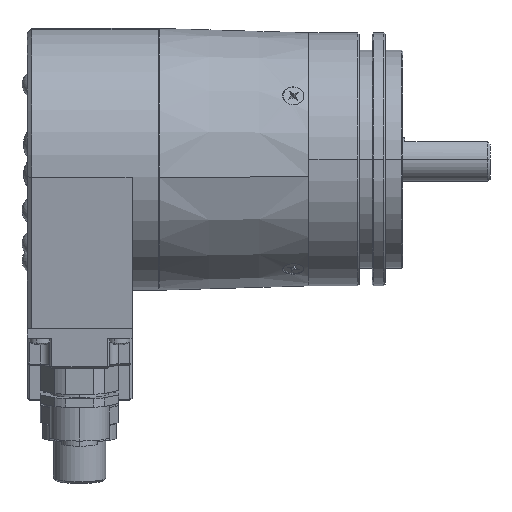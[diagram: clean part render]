
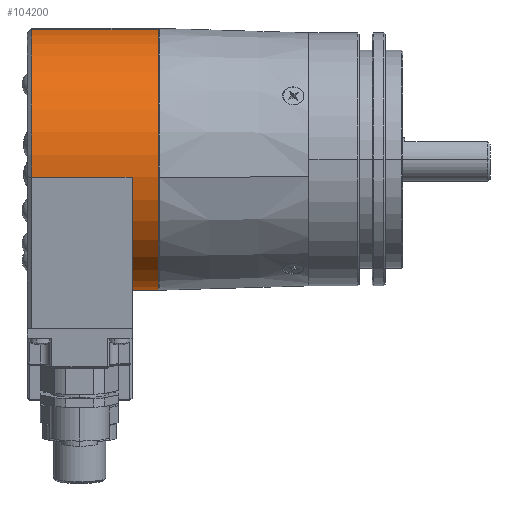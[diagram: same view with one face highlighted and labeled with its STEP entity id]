
A CAD part, top view. The second image highlights one B-rep face of the part: STEP entity #104200.
In plain terms, the highlighted cylindrical face has radius 30 mm (diameter 60 mm), a partial arc.
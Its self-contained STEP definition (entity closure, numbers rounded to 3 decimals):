
#36158 = AXIS2_PLACEMENT_3D ( 'NONE', #36165, #36268, #36267 ) ;
#36159 = CYLINDRICAL_SURFACE ( 'NONE', #36158, 30. ) ;
#36165 = CARTESIAN_POINT ( 'NONE',  ( -27., 0., 0. ) ) ;
#36203 = FACE_OUTER_BOUND ( 'NONE', #104203, .T. ) ;
#36267 = DIRECTION ( 'NONE',  ( 0., 0.99, 0.139 ) ) ;
#36268 = DIRECTION ( 'NONE',  ( -1., 0., 0. ) ) ;
#36271 = CIRCLE ( 'NONE', #36399, 30. ) ;
#36348 = CARTESIAN_POINT ( 'NONE',  ( -33., -4.175, 29.708 ) ) ;
#36349 = CARTESIAN_POINT ( 'NONE',  ( -56., -4.175, 29.708 ) ) ;
#36350 = DIRECTION ( 'NONE',  ( 0., -0.99, -0.139 ) ) ;
#36352 = DIRECTION ( 'NONE',  ( 1., 0., 0. ) ) ;
#36354 = CARTESIAN_POINT ( 'NONE',  ( -56., 0., 0. ) ) ;
#36355 = AXIS2_PLACEMENT_3D ( 'NONE', #36354, #36352, #36350 ) ;
#36357 = CIRCLE ( 'NONE', #36355, 30. ) ;
#36393 = DIRECTION ( 'NONE',  ( 0., -0.99, -0.139 ) ) ;
#36395 = DIRECTION ( 'NONE',  ( 1., 0., 0. ) ) ;
#36397 = CARTESIAN_POINT ( 'NONE',  ( -27., 0., 0. ) ) ;
#36399 = AXIS2_PLACEMENT_3D ( 'NONE', #36397, #36395, #36393 ) ;
#36418 = DIRECTION ( 'NONE',  ( -1., 0., 0. ) ) ;
#36419 = VECTOR ( 'NONE', #36418, 1000. ) ;
#36421 = CARTESIAN_POINT ( 'NONE',  ( -33., -4.175, 29.708 ) ) ;
#36425 = LINE ( 'NONE', #36421, #36419 ) ;
#36475 = DIRECTION ( 'NONE',  ( 0., 0.139, -0.99 ) ) ;
#36476 = DIRECTION ( 'NONE',  ( -1., 0., 0. ) ) ;
#36478 = AXIS2_PLACEMENT_3D ( 'NONE', #36486, #36476, #36475 ) ;
#36479 = CIRCLE ( 'NONE', #36478, 30. ) ;
#36486 = CARTESIAN_POINT ( 'NONE',  ( -33., 0., 0. ) ) ;
#80297 = CARTESIAN_POINT ( 'NONE',  ( -27., -29.708, -4.175 ) ) ;
#80768 = CARTESIAN_POINT ( 'NONE',  ( -56., 29.708, 4.175 ) ) ;
#80883 = DIRECTION ( 'NONE',  ( -1., 0., 0. ) ) ;
#80884 = VECTOR ( 'NONE', #80883, 1000. ) ;
#80885 = CARTESIAN_POINT ( 'NONE',  ( -27., 29.708, 4.175 ) ) ;
#80886 = LINE ( 'NONE', #80885, #80884 ) ;
#81209 = LINE ( 'NONE', #81262, #81261 ) ;
#81214 = CARTESIAN_POINT ( 'NONE',  ( -27., 29.708, 4.175 ) ) ;
#81259 = CARTESIAN_POINT ( 'NONE',  ( -33., -29.708, -4.175 ) ) ;
#81260 = DIRECTION ( 'NONE',  ( -1., 0., 0. ) ) ;
#81261 = VECTOR ( 'NONE', #81260, 1000. ) ;
#81262 = CARTESIAN_POINT ( 'NONE',  ( -27., -29.708, -4.175 ) ) ;
#104200 = ADVANCED_FACE ( 'NONE', ( #36203 ), #36159, .T. ) ;
#104203 = EDGE_LOOP ( 'NONE', ( #104207, #104210, #104218, #104222, #104234, #104241 ) ) ;
#104207 = ORIENTED_EDGE ( 'NONE', *, *, #108697, .F. ) ;
#104210 = ORIENTED_EDGE ( 'NONE', *, *, #104214, .F. ) ;
#104214 = EDGE_CURVE ( 'NONE', #108691, #108392, #36271, .T. ) ;
#104218 = ORIENTED_EDGE ( 'NONE', *, *, #108594, .T. ) ;
#104222 = ORIENTED_EDGE ( 'NONE', *, *, #104228, .T. ) ;
#104228 = EDGE_CURVE ( 'NONE', #108560, #104230, #36357, .T. ) ;
#104230 = VERTEX_POINT ( 'NONE', #36349 ) ;
#104233 = VERTEX_POINT ( 'NONE', #36348 ) ;
#104234 = ORIENTED_EDGE ( 'NONE', *, *, #104237, .F. ) ;
#104237 = EDGE_CURVE ( 'NONE', #104233, #104230, #36425, .T. ) ;
#104241 = ORIENTED_EDGE ( 'NONE', *, *, #104244, .F. ) ;
#104244 = EDGE_CURVE ( 'NONE', #108699, #104233, #36479, .T. ) ;
#108392 = VERTEX_POINT ( 'NONE', #80297 ) ;
#108560 = VERTEX_POINT ( 'NONE', #80768 ) ;
#108594 = EDGE_CURVE ( 'NONE', #108691, #108560, #80886, .T. ) ;
#108691 = VERTEX_POINT ( 'NONE', #81214 ) ;
#108697 = EDGE_CURVE ( 'NONE', #108392, #108699, #81209, .T. ) ;
#108699 = VERTEX_POINT ( 'NONE', #81259 ) ;
